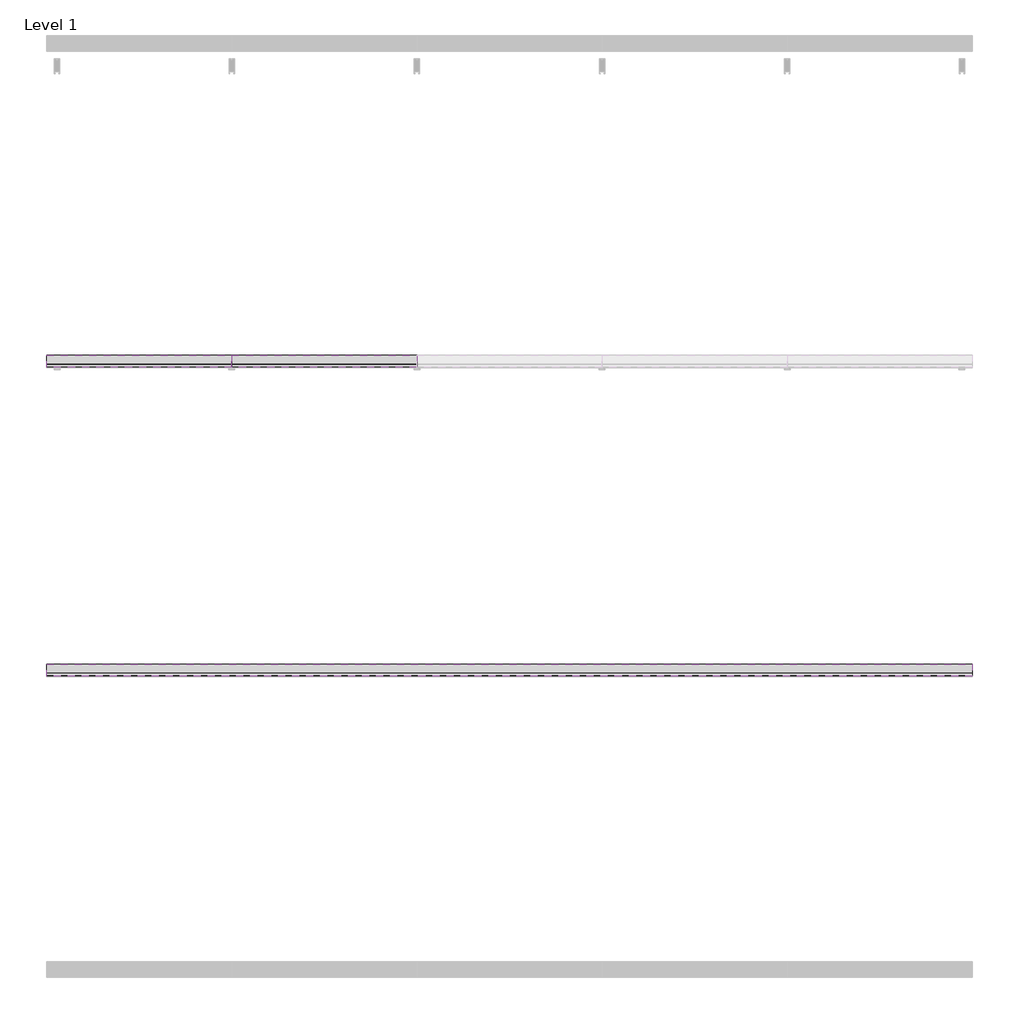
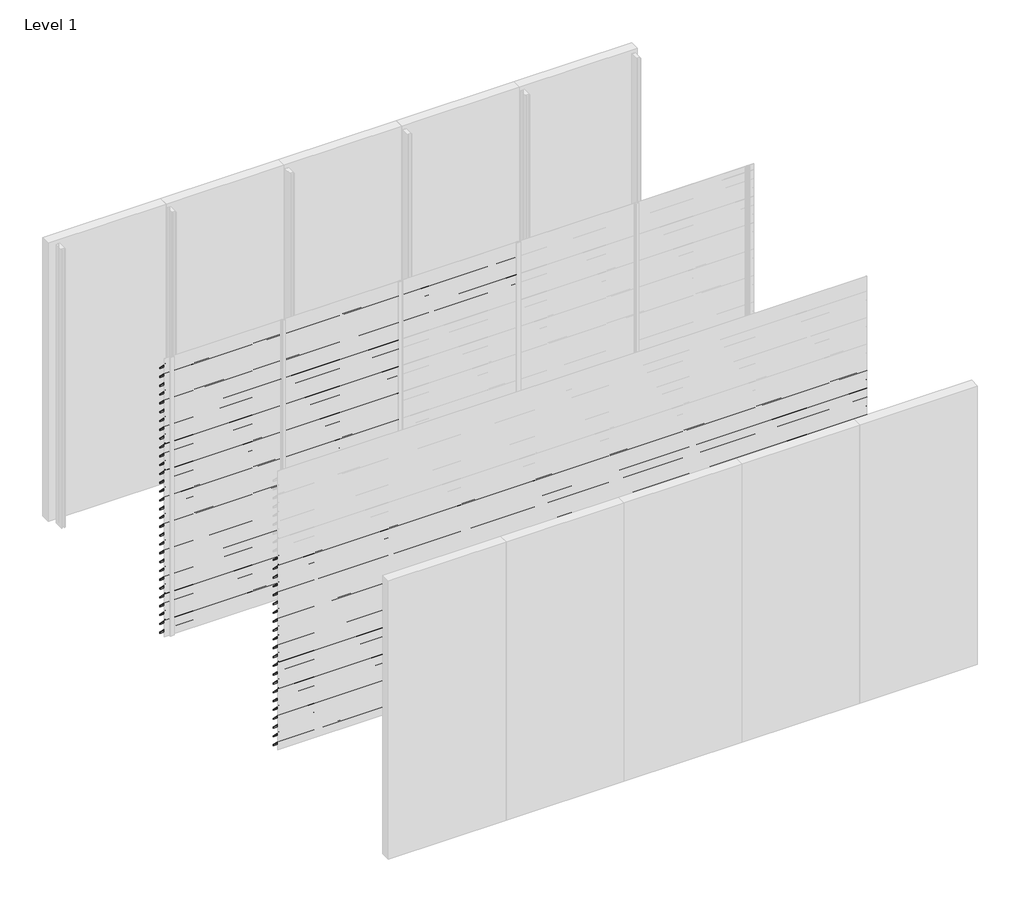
# One storey, part 14 of 24: 89 proxies.
"""IFC4 building model written with IfcOpenShell, lengths in millimetres."""

from ifc_helpers import new_model, si_unit, frame, origin, place, context, project, spatial, polyline, outline, extrude, element, save

model = new_model("IFC4")

# Units and contexts
model_context = context("Model", 3, world=origin())
ifc_project = project(units=[si_unit("LENGTHUNIT", "METRE", prefix="MILLI")], contexts=[model_context])

# Site, building, storey
site = spatial("IfcSite", under=ifc_project)
building = spatial("IfcBuilding", under=site)
storey = spatial("IfcBuildingStorey", under=building, Name="Level 1", Elevation=0.0)

# Proxies
placement = place(None, origin())
element("IfcBuildingElementProxy", 1, Name="Wall Sweeps", at=placement, inside=storey, context=model_context, shape_type="SweptSolid", body=[
    extrude(outline(polyline([(-23920.8, 2842.9), (-23922.3, 2842.9), (-23922.3, 2855.1762333), (-23998.0, 2930.4561238), (-23998.0, 2945.0), (-23996.5, 2945.0), (-23996.5, 2931.0798905), (-23920.8, 2855.8), (-23920.8, 2842.9)])), frame((0.0, 0.0, 0.0), z_axis=(1.0, 0.0, 0.0), x_axis=(0.0, 1.0, 0.0)), (0.0, 0.0, 1.0), 1200.0),
])
element("IfcBuildingElementProxy", 2, Name="Wall Sweeps", at=placement, inside=storey, context=model_context, shape_type="SweptSolid", body=[
    extrude(outline(polyline([(-23920.8, 2747.9), (-23922.3, 2747.9), (-23922.3, 2760.1762333), (-23998.0, 2835.4561238), (-23998.0, 2850.0), (-23996.5, 2850.0), (-23996.5, 2836.0798905), (-23920.8, 2760.8), (-23920.8, 2747.9)])), frame((0.0, 0.0, 0.0), z_axis=(1.0, 0.0, 0.0), x_axis=(0.0, 1.0, 0.0)), (0.0, 0.0, 1.0), 1200.0),
])
element("IfcBuildingElementProxy", 3, Name="Wall Sweeps", at=placement, inside=storey, context=model_context, shape_type="SweptSolid", body=[
    extrude(outline(polyline([(-23920.8, 2652.9), (-23922.3, 2652.9), (-23922.3, 2665.1762333), (-23998.0, 2740.4561238), (-23998.0, 2755.0), (-23996.5, 2755.0), (-23996.5, 2741.0798905), (-23920.8, 2665.8), (-23920.8, 2652.9)])), frame((0.0, 0.0, 0.0), z_axis=(1.0, 0.0, 0.0), x_axis=(0.0, 1.0, 0.0)), (0.0, 0.0, 1.0), 1200.0),
])
element("IfcBuildingElementProxy", 4, Name="Wall Sweeps", at=placement, inside=storey, context=model_context, shape_type="SweptSolid", body=[
    extrude(outline(polyline([(-23920.8, 2557.9), (-23922.3, 2557.9), (-23922.3, 2570.1762333), (-23998.0, 2645.4561238), (-23998.0, 2660.0), (-23996.5, 2660.0), (-23996.5, 2646.0798905), (-23920.8, 2570.8), (-23920.8, 2557.9)])), frame((0.0, 0.0, 0.0), z_axis=(1.0, 0.0, 0.0), x_axis=(0.0, 1.0, 0.0)), (0.0, 0.0, 1.0), 1200.0),
])
element("IfcBuildingElementProxy", 5, Name="Wall Sweeps", at=placement, inside=storey, context=model_context, shape_type="SweptSolid", body=[
    extrude(outline(polyline([(-23920.8, 2462.9), (-23922.3, 2462.9), (-23922.3, 2475.1762333), (-23998.0, 2550.4561238), (-23998.0, 2565.0), (-23996.5, 2565.0), (-23996.5, 2551.0798905), (-23920.8, 2475.8), (-23920.8, 2462.9)])), frame((0.0, 0.0, 0.0), z_axis=(1.0, 0.0, 0.0), x_axis=(0.0, 1.0, 0.0)), (0.0, 0.0, 1.0), 1200.0),
])
element("IfcBuildingElementProxy", 6, Name="Wall Sweeps", at=placement, inside=storey, context=model_context, shape_type="SweptSolid", body=[
    extrude(outline(polyline([(-23920.8, 2367.9), (-23922.3, 2367.9), (-23922.3, 2380.1762333), (-23998.0, 2455.4561238), (-23998.0, 2470.0), (-23996.5, 2470.0), (-23996.5, 2456.0798905), (-23920.8, 2380.8), (-23920.8, 2367.9)])), frame((0.0, 0.0, 0.0), z_axis=(1.0, 0.0, 0.0), x_axis=(0.0, 1.0, 0.0)), (0.0, 0.0, 1.0), 1200.0),
])
element("IfcBuildingElementProxy", 7, Name="Wall Sweeps", at=placement, inside=storey, context=model_context, shape_type="SweptSolid", body=[
    extrude(outline(polyline([(-23920.8, 2272.9), (-23922.3, 2272.9), (-23922.3, 2285.1762333), (-23998.0, 2360.4561238), (-23998.0, 2375.0), (-23996.5, 2375.0), (-23996.5, 2361.0798905), (-23920.8, 2285.8), (-23920.8, 2272.9)])), frame((0.0, 0.0, 0.0), z_axis=(1.0, 0.0, 0.0), x_axis=(0.0, 1.0, 0.0)), (0.0, 0.0, 1.0), 1200.0),
])
element("IfcBuildingElementProxy", 8, Name="Wall Sweeps", at=placement, inside=storey, context=model_context, shape_type="SweptSolid", body=[
    extrude(outline(polyline([(-23920.8, 2177.9), (-23922.3, 2177.9), (-23922.3, 2190.1762333), (-23998.0, 2265.4561238), (-23998.0, 2280.0), (-23996.5, 2280.0), (-23996.5, 2266.0798905), (-23920.8, 2190.8), (-23920.8, 2177.9)])), frame((0.0, 0.0, 0.0), z_axis=(1.0, 0.0, 0.0), x_axis=(0.0, 1.0, 0.0)), (0.0, 0.0, 1.0), 1200.0),
])
element("IfcBuildingElementProxy", 9, Name="Wall Sweeps", at=placement, inside=storey, context=model_context, shape_type="SweptSolid", body=[
    extrude(outline(polyline([(-23920.8, 2082.9), (-23922.3, 2082.9), (-23922.3, 2095.1762333), (-23998.0, 2170.4561238), (-23998.0, 2185.0), (-23996.5, 2185.0), (-23996.5, 2171.0798905), (-23920.8, 2095.8), (-23920.8, 2082.9)])), frame((0.0, 0.0, 0.0), z_axis=(1.0, 0.0, 0.0), x_axis=(0.0, 1.0, 0.0)), (0.0, 0.0, 1.0), 1200.0),
])
element("IfcBuildingElementProxy", 10, Name="Wall Sweeps", at=placement, inside=storey, context=model_context, shape_type="SweptSolid", body=[
    extrude(outline(polyline([(-23920.8, 1987.9), (-23922.3, 1987.9), (-23922.3, 2000.1762333), (-23998.0, 2075.4561238), (-23998.0, 2090.0), (-23996.5, 2090.0), (-23996.5, 2076.0798905), (-23920.8, 2000.8), (-23920.8, 1987.9)])), frame((0.0, 0.0, 0.0), z_axis=(1.0, 0.0, 0.0), x_axis=(0.0, 1.0, 0.0)), (0.0, 0.0, 1.0), 1200.0),
])
element("IfcBuildingElementProxy", 11, Name="Wall Sweeps", at=placement, inside=storey, context=model_context, shape_type="SweptSolid", body=[
    extrude(outline(polyline([(-23920.8, 1892.9), (-23922.3, 1892.9), (-23922.3, 1905.1762333), (-23998.0, 1980.4561238), (-23998.0, 1995.0), (-23996.5, 1995.0), (-23996.5, 1981.0798905), (-23920.8, 1905.8), (-23920.8, 1892.9)])), frame((0.0, 0.0, 0.0), z_axis=(1.0, 0.0, 0.0), x_axis=(0.0, 1.0, 0.0)), (0.0, 0.0, 1.0), 1200.0),
])
element("IfcBuildingElementProxy", 12, Name="Wall Sweeps", at=placement, inside=storey, context=model_context, shape_type="SweptSolid", body=[
    extrude(outline(polyline([(-23920.8, 1797.9), (-23922.3, 1797.9), (-23922.3, 1810.1762333), (-23998.0, 1885.4561238), (-23998.0, 1900.0), (-23996.5, 1900.0), (-23996.5, 1886.0798905), (-23920.8, 1810.8), (-23920.8, 1797.9)])), frame((0.0, 0.0, 0.0), z_axis=(1.0, 0.0, 0.0), x_axis=(0.0, 1.0, 0.0)), (0.0, 0.0, 1.0), 1200.0),
])
element("IfcBuildingElementProxy", 13, Name="Wall Sweeps", at=placement, inside=storey, context=model_context, shape_type="SweptSolid", body=[
    extrude(outline(polyline([(-23920.8, 1702.9), (-23922.3, 1702.9), (-23922.3, 1715.1762333), (-23998.0, 1790.4561238), (-23998.0, 1805.0), (-23996.5, 1805.0), (-23996.5, 1791.0798905), (-23920.8, 1715.8), (-23920.8, 1702.9)])), frame((0.0, 0.0, 0.0), z_axis=(1.0, 0.0, 0.0), x_axis=(0.0, 1.0, 0.0)), (0.0, 0.0, 1.0), 1200.0),
])
element("IfcBuildingElementProxy", 14, Name="Wall Sweeps", at=placement, inside=storey, context=model_context, shape_type="SweptSolid", body=[
    extrude(outline(polyline([(-23920.8, 1607.9), (-23922.3, 1607.9), (-23922.3, 1620.1762333), (-23998.0, 1695.4561238), (-23998.0, 1710.0), (-23996.5, 1710.0), (-23996.5, 1696.0798905), (-23920.8, 1620.8), (-23920.8, 1607.9)])), frame((0.0, 0.0, 0.0), z_axis=(1.0, 0.0, 0.0), x_axis=(0.0, 1.0, 0.0)), (0.0, 0.0, 1.0), 1200.0),
])
element("IfcBuildingElementProxy", 15, Name="Wall Sweeps", at=placement, inside=storey, context=model_context, shape_type="SweptSolid", body=[
    extrude(outline(polyline([(-23920.8, 1512.9), (-23922.3, 1512.9), (-23922.3, 1525.1762333), (-23998.0, 1600.4561238), (-23998.0, 1615.0), (-23996.5, 1615.0), (-23996.5, 1601.0798905), (-23920.8, 1525.8), (-23920.8, 1512.9)])), frame((0.0, 0.0, 0.0), z_axis=(1.0, 0.0, 0.0), x_axis=(0.0, 1.0, 0.0)), (0.0, 0.0, 1.0), 1200.0),
])
element("IfcBuildingElementProxy", 16, Name="Wall Sweeps", at=placement, inside=storey, context=model_context, shape_type="SweptSolid", body=[
    extrude(outline(polyline([(-23920.8, 1417.9), (-23922.3, 1417.9), (-23922.3, 1430.1762333), (-23998.0, 1505.4561238), (-23998.0, 1520.0), (-23996.5, 1520.0), (-23996.5, 1506.0798905), (-23920.8, 1430.8), (-23920.8, 1417.9)])), frame((0.0, 0.0, 0.0), z_axis=(1.0, 0.0, 0.0), x_axis=(0.0, 1.0, 0.0)), (0.0, 0.0, 1.0), 1200.0),
])
element("IfcBuildingElementProxy", 17, Name="Wall Sweeps", at=placement, inside=storey, context=model_context, shape_type="SweptSolid", body=[
    extrude(outline(polyline([(-23920.8, 1322.9), (-23922.3, 1322.9), (-23922.3, 1335.1762333), (-23998.0, 1410.4561238), (-23998.0, 1425.0), (-23996.5, 1425.0), (-23996.5, 1411.0798905), (-23920.8, 1335.8), (-23920.8, 1322.9)])), frame((0.0, 0.0, 0.0), z_axis=(1.0, 0.0, 0.0), x_axis=(0.0, 1.0, 0.0)), (0.0, 0.0, 1.0), 1200.0),
])
element("IfcBuildingElementProxy", 18, Name="Wall Sweeps", at=placement, inside=storey, context=model_context, shape_type="SweptSolid", body=[
    extrude(outline(polyline([(-23920.8, 1227.9), (-23922.3, 1227.9), (-23922.3, 1240.1762333), (-23998.0, 1315.4561238), (-23998.0, 1330.0), (-23996.5, 1330.0), (-23996.5, 1316.0798905), (-23920.8, 1240.8), (-23920.8, 1227.9)])), frame((0.0, 0.0, 0.0), z_axis=(1.0, 0.0, 0.0), x_axis=(0.0, 1.0, 0.0)), (0.0, 0.0, 1.0), 1200.0),
])
element("IfcBuildingElementProxy", 19, Name="Wall Sweeps", at=placement, inside=storey, context=model_context, shape_type="SweptSolid", body=[
    extrude(outline(polyline([(-23920.8, 1132.9), (-23922.3, 1132.9), (-23922.3, 1145.1762333), (-23998.0, 1220.4561238), (-23998.0, 1235.0), (-23996.5, 1235.0), (-23996.5, 1221.0798905), (-23920.8, 1145.8), (-23920.8, 1132.9)])), frame((0.0, 0.0, 0.0), z_axis=(1.0, 0.0, 0.0), x_axis=(0.0, 1.0, 0.0)), (0.0, 0.0, 1.0), 1200.0),
])
element("IfcBuildingElementProxy", 20, Name="Wall Sweeps", at=placement, inside=storey, context=model_context, shape_type="SweptSolid", body=[
    extrude(outline(polyline([(-23920.8, 1037.9), (-23922.3, 1037.9), (-23922.3, 1050.1762333), (-23998.0, 1125.4561238), (-23998.0, 1140.0), (-23996.5, 1140.0), (-23996.5, 1126.0798905), (-23920.8, 1050.8), (-23920.8, 1037.9)])), frame((0.0, 0.0, 0.0), z_axis=(1.0, 0.0, 0.0), x_axis=(0.0, 1.0, 0.0)), (0.0, 0.0, 1.0), 1200.0),
])
element("IfcBuildingElementProxy", 21, Name="Wall Sweeps", at=placement, inside=storey, context=model_context, shape_type="SweptSolid", body=[
    extrude(outline(polyline([(-23920.8, 942.9), (-23922.3, 942.9), (-23922.3, 955.1762333), (-23998.0, 1030.4561238), (-23998.0, 1045.0), (-23996.5, 1045.0), (-23996.5, 1031.0798905), (-23920.8, 955.8), (-23920.8, 942.9)])), frame((0.0, 0.0, 0.0), z_axis=(1.0, 0.0, 0.0), x_axis=(0.0, 1.0, 0.0)), (0.0, 0.0, 1.0), 1200.0),
])
element("IfcBuildingElementProxy", 22, Name="Wall Sweeps", at=placement, inside=storey, context=model_context, shape_type="SweptSolid", body=[
    extrude(outline(polyline([(-23920.8, 847.9), (-23922.3, 847.9), (-23922.3, 860.1762333), (-23998.0, 935.4561238), (-23998.0, 950.0), (-23996.5, 950.0), (-23996.5, 936.0798905), (-23920.8, 860.8), (-23920.8, 847.9)])), frame((0.0, 0.0, 0.0), z_axis=(1.0, 0.0, 0.0), x_axis=(0.0, 1.0, 0.0)), (0.0, 0.0, 1.0), 1200.0),
])
element("IfcBuildingElementProxy", 23, Name="Wall Sweeps", at=placement, inside=storey, context=model_context, shape_type="SweptSolid", body=[
    extrude(outline(polyline([(-23920.8, 752.9), (-23922.3, 752.9), (-23922.3, 765.1762333), (-23998.0, 840.4561238), (-23998.0, 855.0), (-23996.5, 855.0), (-23996.5, 841.0798905), (-23920.8, 765.8), (-23920.8, 752.9)])), frame((0.0, 0.0, 0.0), z_axis=(1.0, 0.0, 0.0), x_axis=(0.0, 1.0, 0.0)), (0.0, 0.0, 1.0), 1200.0),
])
element("IfcBuildingElementProxy", 24, Name="Wall Sweeps", at=placement, inside=storey, context=model_context, shape_type="SweptSolid", body=[
    extrude(outline(polyline([(-23920.8, 657.9), (-23922.3, 657.9), (-23922.3, 670.1762333), (-23998.0, 745.4561238), (-23998.0, 760.0), (-23996.5, 760.0), (-23996.5, 746.0798905), (-23920.8, 670.8), (-23920.8, 657.9)])), frame((0.0, 0.0, 0.0), z_axis=(1.0, 0.0, 0.0), x_axis=(0.0, 1.0, 0.0)), (0.0, 0.0, 1.0), 1200.0),
])
element("IfcBuildingElementProxy", 25, Name="Wall Sweeps", at=placement, inside=storey, context=model_context, shape_type="SweptSolid", body=[
    extrude(outline(polyline([(-23920.8, 562.9), (-23922.3, 562.9), (-23922.3, 575.1762333), (-23998.0, 650.4561238), (-23998.0, 665.0), (-23996.5, 665.0), (-23996.5, 651.0798905), (-23920.8, 575.8), (-23920.8, 562.9)])), frame((0.0, 0.0, 0.0), z_axis=(1.0, 0.0, 0.0), x_axis=(0.0, 1.0, 0.0)), (0.0, 0.0, 1.0), 1200.0),
])
element("IfcBuildingElementProxy", 26, Name="Wall Sweeps", at=placement, inside=storey, context=model_context, shape_type="SweptSolid", body=[
    extrude(outline(polyline([(-23920.8, 467.9), (-23922.3, 467.9), (-23922.3, 480.1762333), (-23998.0, 555.4561238), (-23998.0, 570.0), (-23996.5, 570.0), (-23996.5, 556.0798905), (-23920.8, 480.8), (-23920.8, 467.9)])), frame((0.0, 0.0, 0.0), z_axis=(1.0, 0.0, 0.0), x_axis=(0.0, 1.0, 0.0)), (0.0, 0.0, 1.0), 1200.0),
])
element("IfcBuildingElementProxy", 27, Name="Wall Sweeps", at=placement, inside=storey, context=model_context, shape_type="SweptSolid", body=[
    extrude(outline(polyline([(-23920.8, 372.9), (-23922.3, 372.9), (-23922.3, 385.1762333), (-23998.0, 460.4561238), (-23998.0, 475.0), (-23996.5, 475.0), (-23996.5, 461.0798905), (-23920.8, 385.8), (-23920.8, 372.9)])), frame((0.0, 0.0, 0.0), z_axis=(1.0, 0.0, 0.0), x_axis=(0.0, 1.0, 0.0)), (0.0, 0.0, 1.0), 1200.0),
])
element("IfcBuildingElementProxy", 28, Name="Wall Sweeps", at=placement, inside=storey, context=model_context, shape_type="SweptSolid", body=[
    extrude(outline(polyline([(-23920.8, 277.9), (-23922.3, 277.9), (-23922.3, 290.1762333), (-23998.0, 365.4561238), (-23998.0, 380.0), (-23996.5, 380.0), (-23996.5, 366.0798905), (-23920.8, 290.8), (-23920.8, 277.9)])), frame((0.0, 0.0, 0.0), z_axis=(1.0, 0.0, 0.0), x_axis=(0.0, 1.0, 0.0)), (0.0, 0.0, 1.0), 1200.0),
])
element("IfcBuildingElementProxy", 29, Name="Wall Sweeps", at=placement, inside=storey, context=model_context, shape_type="SweptSolid", body=[
    extrude(outline(polyline([(-23920.8, 182.9), (-23922.3, 182.9), (-23922.3, 195.1762333), (-23998.0, 270.4561238), (-23998.0, 285.0), (-23996.5, 285.0), (-23996.5, 271.0798905), (-23920.8, 195.8), (-23920.8, 182.9)])), frame((0.0, 0.0, 0.0), z_axis=(1.0, 0.0, 0.0), x_axis=(0.0, 1.0, 0.0)), (0.0, 0.0, 1.0), 1200.0),
])
element("IfcBuildingElementProxy", 30, Name="Wall Sweeps", at=placement, inside=storey, context=model_context, shape_type="SweptSolid", body=[
    extrude(outline(polyline([(-23920.8, 87.9), (-23922.3, 87.9), (-23922.3, 100.1762333), (-23998.0, 175.4561238), (-23998.0, 190.0), (-23996.5, 190.0), (-23996.5, 176.0798905), (-23920.8, 100.8), (-23920.8, 87.9)])), frame((0.0, 0.0, 0.0), z_axis=(1.0, 0.0, 0.0), x_axis=(0.0, 1.0, 0.0)), (0.0, 0.0, 1.0), 1200.0),
])
element("IfcBuildingElementProxy", 31, Name="Wall Sweeps", at=placement, inside=storey, context=model_context, shape_type="SweptSolid", body=[
    extrude(outline(polyline([(-23920.8, -7.1), (-23922.3, -7.1), (-23922.3, 5.1762333), (-23998.0, 80.4561238), (-23998.0, 95.0), (-23996.5, 95.0), (-23996.5, 81.0798905), (-23920.8, 5.8), (-23920.8, -7.1)])), frame((0.0, 0.0, 0.0), z_axis=(1.0, 0.0, 0.0), x_axis=(0.0, 1.0, 0.0)), (0.0, 0.0, 1.0), 1200.0),
])
element("IfcBuildingElementProxy", 32, Name="Wall Sweeps", at=placement, inside=storey, context=model_context, shape_type="SweptSolid", body=[
    extrude(outline(polyline([(-23920.8, 2842.9), (-23922.3, 2842.9), (-23922.3, 2855.1762333), (-23998.0, 2930.4561238), (-23998.0, 2945.0), (-23996.5, 2945.0), (-23996.5, 2931.0798905), (-23920.8, 2855.8), (-23920.8, 2842.9)])), frame((1200.0, 0.0, 0.0), z_axis=(1.0, 0.0, 0.0), x_axis=(0.0, 1.0, 0.0)), (0.0, 0.0, 1.0), 1200.0),
])
element("IfcBuildingElementProxy", 33, Name="Wall Sweeps", at=placement, inside=storey, context=model_context, shape_type="SweptSolid", body=[
    extrude(outline(polyline([(-23920.8, 2747.9), (-23922.3, 2747.9), (-23922.3, 2760.1762333), (-23998.0, 2835.4561238), (-23998.0, 2850.0), (-23996.5, 2850.0), (-23996.5, 2836.0798905), (-23920.8, 2760.8), (-23920.8, 2747.9)])), frame((1200.0, 0.0, 0.0), z_axis=(1.0, 0.0, 0.0), x_axis=(0.0, 1.0, 0.0)), (0.0, 0.0, 1.0), 1200.0),
])
element("IfcBuildingElementProxy", 34, Name="Wall Sweeps", at=placement, inside=storey, context=model_context, shape_type="SweptSolid", body=[
    extrude(outline(polyline([(-23920.8, 2652.9), (-23922.3, 2652.9), (-23922.3, 2665.1762333), (-23998.0, 2740.4561238), (-23998.0, 2755.0), (-23996.5, 2755.0), (-23996.5, 2741.0798905), (-23920.8, 2665.8), (-23920.8, 2652.9)])), frame((1200.0, 0.0, 0.0), z_axis=(1.0, 0.0, 0.0), x_axis=(0.0, 1.0, 0.0)), (0.0, 0.0, 1.0), 1200.0),
])
element("IfcBuildingElementProxy", 35, Name="Wall Sweeps", at=placement, inside=storey, context=model_context, shape_type="SweptSolid", body=[
    extrude(outline(polyline([(-23920.8, 2557.9), (-23922.3, 2557.9), (-23922.3, 2570.1762333), (-23998.0, 2645.4561238), (-23998.0, 2660.0), (-23996.5, 2660.0), (-23996.5, 2646.0798905), (-23920.8, 2570.8), (-23920.8, 2557.9)])), frame((1200.0, 0.0, 0.0), z_axis=(1.0, 0.0, 0.0), x_axis=(0.0, 1.0, 0.0)), (0.0, 0.0, 1.0), 1200.0),
])
element("IfcBuildingElementProxy", 36, Name="Wall Sweeps", at=placement, inside=storey, context=model_context, shape_type="SweptSolid", body=[
    extrude(outline(polyline([(-23920.8, 2462.9), (-23922.3, 2462.9), (-23922.3, 2475.1762333), (-23998.0, 2550.4561238), (-23998.0, 2565.0), (-23996.5, 2565.0), (-23996.5, 2551.0798905), (-23920.8, 2475.8), (-23920.8, 2462.9)])), frame((1200.0, 0.0, 0.0), z_axis=(1.0, 0.0, 0.0), x_axis=(0.0, 1.0, 0.0)), (0.0, 0.0, 1.0), 1200.0),
])
element("IfcBuildingElementProxy", 37, Name="Wall Sweeps", at=placement, inside=storey, context=model_context, shape_type="SweptSolid", body=[
    extrude(outline(polyline([(-23920.8, 2367.9), (-23922.3, 2367.9), (-23922.3, 2380.1762333), (-23998.0, 2455.4561238), (-23998.0, 2470.0), (-23996.5, 2470.0), (-23996.5, 2456.0798905), (-23920.8, 2380.8), (-23920.8, 2367.9)])), frame((1200.0, 0.0, 0.0), z_axis=(1.0, 0.0, 0.0), x_axis=(0.0, 1.0, 0.0)), (0.0, 0.0, 1.0), 1200.0),
])
element("IfcBuildingElementProxy", 38, Name="Wall Sweeps", at=placement, inside=storey, context=model_context, shape_type="SweptSolid", body=[
    extrude(outline(polyline([(-23920.8, 2272.9), (-23922.3, 2272.9), (-23922.3, 2285.1762333), (-23998.0, 2360.4561238), (-23998.0, 2375.0), (-23996.5, 2375.0), (-23996.5, 2361.0798905), (-23920.8, 2285.8), (-23920.8, 2272.9)])), frame((1200.0, 0.0, 0.0), z_axis=(1.0, 0.0, 0.0), x_axis=(0.0, 1.0, 0.0)), (0.0, 0.0, 1.0), 1200.0),
])
element("IfcBuildingElementProxy", 39, Name="Wall Sweeps", at=placement, inside=storey, context=model_context, shape_type="SweptSolid", body=[
    extrude(outline(polyline([(-23920.8, 2177.9), (-23922.3, 2177.9), (-23922.3, 2190.1762333), (-23998.0, 2265.4561238), (-23998.0, 2280.0), (-23996.5, 2280.0), (-23996.5, 2266.0798905), (-23920.8, 2190.8), (-23920.8, 2177.9)])), frame((1200.0, 0.0, 0.0), z_axis=(1.0, 0.0, 0.0), x_axis=(0.0, 1.0, 0.0)), (0.0, 0.0, 1.0), 1200.0),
])
element("IfcBuildingElementProxy", 40, Name="Wall Sweeps", at=placement, inside=storey, context=model_context, shape_type="SweptSolid", body=[
    extrude(outline(polyline([(-23920.8, 2082.9), (-23922.3, 2082.9), (-23922.3, 2095.1762333), (-23998.0, 2170.4561238), (-23998.0, 2185.0), (-23996.5, 2185.0), (-23996.5, 2171.0798905), (-23920.8, 2095.8), (-23920.8, 2082.9)])), frame((1200.0, 0.0, 0.0), z_axis=(1.0, 0.0, 0.0), x_axis=(0.0, 1.0, 0.0)), (0.0, 0.0, 1.0), 1200.0),
])
element("IfcBuildingElementProxy", 41, Name="Wall Sweeps", at=placement, inside=storey, context=model_context, shape_type="SweptSolid", body=[
    extrude(outline(polyline([(-23920.8, 1987.9), (-23922.3, 1987.9), (-23922.3, 2000.1762333), (-23998.0, 2075.4561238), (-23998.0, 2090.0), (-23996.5, 2090.0), (-23996.5, 2076.0798905), (-23920.8, 2000.8), (-23920.8, 1987.9)])), frame((1200.0, 0.0, 0.0), z_axis=(1.0, 0.0, 0.0), x_axis=(0.0, 1.0, 0.0)), (0.0, 0.0, 1.0), 1200.0),
])
element("IfcBuildingElementProxy", 42, Name="Wall Sweeps", at=placement, inside=storey, context=model_context, shape_type="SweptSolid", body=[
    extrude(outline(polyline([(-23920.8, 1892.9), (-23922.3, 1892.9), (-23922.3, 1905.1762333), (-23998.0, 1980.4561238), (-23998.0, 1995.0), (-23996.5, 1995.0), (-23996.5, 1981.0798905), (-23920.8, 1905.8), (-23920.8, 1892.9)])), frame((1200.0, 0.0, 0.0), z_axis=(1.0, 0.0, 0.0), x_axis=(0.0, 1.0, 0.0)), (0.0, 0.0, 1.0), 1200.0),
])
element("IfcBuildingElementProxy", 43, Name="Wall Sweeps", at=placement, inside=storey, context=model_context, shape_type="SweptSolid", body=[
    extrude(outline(polyline([(-23920.8, 1797.9), (-23922.3, 1797.9), (-23922.3, 1810.1762333), (-23998.0, 1885.4561238), (-23998.0, 1900.0), (-23996.5, 1900.0), (-23996.5, 1886.0798905), (-23920.8, 1810.8), (-23920.8, 1797.9)])), frame((1200.0, 0.0, 0.0), z_axis=(1.0, 0.0, 0.0), x_axis=(0.0, 1.0, 0.0)), (0.0, 0.0, 1.0), 1200.0),
])
element("IfcBuildingElementProxy", 44, Name="Wall Sweeps", at=placement, inside=storey, context=model_context, shape_type="SweptSolid", body=[
    extrude(outline(polyline([(-23920.8, 1702.9), (-23922.3, 1702.9), (-23922.3, 1715.1762333), (-23998.0, 1790.4561238), (-23998.0, 1805.0), (-23996.5, 1805.0), (-23996.5, 1791.0798905), (-23920.8, 1715.8), (-23920.8, 1702.9)])), frame((1200.0, 0.0, 0.0), z_axis=(1.0, 0.0, 0.0), x_axis=(0.0, 1.0, 0.0)), (0.0, 0.0, 1.0), 1200.0),
])
element("IfcBuildingElementProxy", 45, Name="Wall Sweeps", at=placement, inside=storey, context=model_context, shape_type="SweptSolid", body=[
    extrude(outline(polyline([(-23920.8, 1607.9), (-23922.3, 1607.9), (-23922.3, 1620.1762333), (-23998.0, 1695.4561238), (-23998.0, 1710.0), (-23996.5, 1710.0), (-23996.5, 1696.0798905), (-23920.8, 1620.8), (-23920.8, 1607.9)])), frame((1200.0, 0.0, 0.0), z_axis=(1.0, 0.0, 0.0), x_axis=(0.0, 1.0, 0.0)), (0.0, 0.0, 1.0), 1200.0),
])
element("IfcBuildingElementProxy", 46, Name="Wall Sweeps", at=placement, inside=storey, context=model_context, shape_type="SweptSolid", body=[
    extrude(outline(polyline([(-23920.8, 1512.9), (-23922.3, 1512.9), (-23922.3, 1525.1762333), (-23998.0, 1600.4561238), (-23998.0, 1615.0), (-23996.5, 1615.0), (-23996.5, 1601.0798905), (-23920.8, 1525.8), (-23920.8, 1512.9)])), frame((1200.0, 0.0, 0.0), z_axis=(1.0, 0.0, 0.0), x_axis=(0.0, 1.0, 0.0)), (0.0, 0.0, 1.0), 1200.0),
])
element("IfcBuildingElementProxy", 47, Name="Wall Sweeps", at=placement, inside=storey, context=model_context, shape_type="SweptSolid", body=[
    extrude(outline(polyline([(-23920.8, 1417.9), (-23922.3, 1417.9), (-23922.3, 1430.1762333), (-23998.0, 1505.4561238), (-23998.0, 1520.0), (-23996.5, 1520.0), (-23996.5, 1506.0798905), (-23920.8, 1430.8), (-23920.8, 1417.9)])), frame((1200.0, 0.0, 0.0), z_axis=(1.0, 0.0, 0.0), x_axis=(0.0, 1.0, 0.0)), (0.0, 0.0, 1.0), 1200.0),
])
element("IfcBuildingElementProxy", 48, Name="Wall Sweeps", at=placement, inside=storey, context=model_context, shape_type="SweptSolid", body=[
    extrude(outline(polyline([(-23920.8, 1322.9), (-23922.3, 1322.9), (-23922.3, 1335.1762333), (-23998.0, 1410.4561238), (-23998.0, 1425.0), (-23996.5, 1425.0), (-23996.5, 1411.0798905), (-23920.8, 1335.8), (-23920.8, 1322.9)])), frame((1200.0, 0.0, 0.0), z_axis=(1.0, 0.0, 0.0), x_axis=(0.0, 1.0, 0.0)), (0.0, 0.0, 1.0), 1200.0),
])
element("IfcBuildingElementProxy", 49, Name="Wall Sweeps", at=placement, inside=storey, context=model_context, shape_type="SweptSolid", body=[
    extrude(outline(polyline([(-23920.8, 1227.9), (-23922.3, 1227.9), (-23922.3, 1240.1762333), (-23998.0, 1315.4561238), (-23998.0, 1330.0), (-23996.5, 1330.0), (-23996.5, 1316.0798905), (-23920.8, 1240.8), (-23920.8, 1227.9)])), frame((1200.0, 0.0, 0.0), z_axis=(1.0, 0.0, 0.0), x_axis=(0.0, 1.0, 0.0)), (0.0, 0.0, 1.0), 1200.0),
])
element("IfcBuildingElementProxy", 50, Name="Wall Sweeps", at=placement, inside=storey, context=model_context, shape_type="SweptSolid", body=[
    extrude(outline(polyline([(-23920.8, 1132.9), (-23922.3, 1132.9), (-23922.3, 1145.1762333), (-23998.0, 1220.4561238), (-23998.0, 1235.0), (-23996.5, 1235.0), (-23996.5, 1221.0798905), (-23920.8, 1145.8), (-23920.8, 1132.9)])), frame((1200.0, 0.0, 0.0), z_axis=(1.0, 0.0, 0.0), x_axis=(0.0, 1.0, 0.0)), (0.0, 0.0, 1.0), 1200.0),
])
element("IfcBuildingElementProxy", 51, Name="Wall Sweeps", at=placement, inside=storey, context=model_context, shape_type="SweptSolid", body=[
    extrude(outline(polyline([(-23920.8, 1037.9), (-23922.3, 1037.9), (-23922.3, 1050.1762333), (-23998.0, 1125.4561238), (-23998.0, 1140.0), (-23996.5, 1140.0), (-23996.5, 1126.0798905), (-23920.8, 1050.8), (-23920.8, 1037.9)])), frame((1200.0, 0.0, 0.0), z_axis=(1.0, 0.0, 0.0), x_axis=(0.0, 1.0, 0.0)), (0.0, 0.0, 1.0), 1200.0),
])
element("IfcBuildingElementProxy", 52, Name="Wall Sweeps", at=placement, inside=storey, context=model_context, shape_type="SweptSolid", body=[
    extrude(outline(polyline([(-23920.8, 942.9), (-23922.3, 942.9), (-23922.3, 955.1762333), (-23998.0, 1030.4561238), (-23998.0, 1045.0), (-23996.5, 1045.0), (-23996.5, 1031.0798905), (-23920.8, 955.8), (-23920.8, 942.9)])), frame((1200.0, 0.0, 0.0), z_axis=(1.0, 0.0, 0.0), x_axis=(0.0, 1.0, 0.0)), (0.0, 0.0, 1.0), 1200.0),
])
element("IfcBuildingElementProxy", 53, Name="Wall Sweeps", at=placement, inside=storey, context=model_context, shape_type="SweptSolid", body=[
    extrude(outline(polyline([(-23920.8, 847.9), (-23922.3, 847.9), (-23922.3, 860.1762333), (-23998.0, 935.4561238), (-23998.0, 950.0), (-23996.5, 950.0), (-23996.5, 936.0798905), (-23920.8, 860.8), (-23920.8, 847.9)])), frame((1200.0, 0.0, 0.0), z_axis=(1.0, 0.0, 0.0), x_axis=(0.0, 1.0, 0.0)), (0.0, 0.0, 1.0), 1200.0),
])
element("IfcBuildingElementProxy", 54, Name="Wall Sweeps", at=placement, inside=storey, context=model_context, shape_type="SweptSolid", body=[
    extrude(outline(polyline([(-23920.8, 752.9), (-23922.3, 752.9), (-23922.3, 765.1762333), (-23998.0, 840.4561238), (-23998.0, 855.0), (-23996.5, 855.0), (-23996.5, 841.0798905), (-23920.8, 765.8), (-23920.8, 752.9)])), frame((1200.0, 0.0, 0.0), z_axis=(1.0, 0.0, 0.0), x_axis=(0.0, 1.0, 0.0)), (0.0, 0.0, 1.0), 1200.0),
])
element("IfcBuildingElementProxy", 55, Name="Wall Sweeps", at=placement, inside=storey, context=model_context, shape_type="SweptSolid", body=[
    extrude(outline(polyline([(-23920.8, 657.9), (-23922.3, 657.9), (-23922.3, 670.1762333), (-23998.0, 745.4561238), (-23998.0, 760.0), (-23996.5, 760.0), (-23996.5, 746.0798905), (-23920.8, 670.8), (-23920.8, 657.9)])), frame((1200.0, 0.0, 0.0), z_axis=(1.0, 0.0, 0.0), x_axis=(0.0, 1.0, 0.0)), (0.0, 0.0, 1.0), 1200.0),
])
element("IfcBuildingElementProxy", 56, Name="Wall Sweeps", at=placement, inside=storey, context=model_context, shape_type="SweptSolid", body=[
    extrude(outline(polyline([(-23920.8, 562.9), (-23922.3, 562.9), (-23922.3, 575.1762333), (-23998.0, 650.4561238), (-23998.0, 665.0), (-23996.5, 665.0), (-23996.5, 651.0798905), (-23920.8, 575.8), (-23920.8, 562.9)])), frame((1200.0, 0.0, 0.0), z_axis=(1.0, 0.0, 0.0), x_axis=(0.0, 1.0, 0.0)), (0.0, 0.0, 1.0), 1200.0),
])
element("IfcBuildingElementProxy", 57, Name="Wall Sweeps", at=placement, inside=storey, context=model_context, shape_type="SweptSolid", body=[
    extrude(outline(polyline([(-23920.8, 467.9), (-23922.3, 467.9), (-23922.3, 480.1762333), (-23998.0, 555.4561238), (-23998.0, 570.0), (-23996.5, 570.0), (-23996.5, 556.0798905), (-23920.8, 480.8), (-23920.8, 467.9)])), frame((1200.0, 0.0, 0.0), z_axis=(1.0, 0.0, 0.0), x_axis=(0.0, 1.0, 0.0)), (0.0, 0.0, 1.0), 1200.0),
])
element("IfcBuildingElementProxy", 58, Name="Wall Sweeps", at=placement, inside=storey, context=model_context, shape_type="SweptSolid", body=[
    extrude(outline(polyline([(-23920.8, 372.9), (-23922.3, 372.9), (-23922.3, 385.1762333), (-23998.0, 460.4561238), (-23998.0, 475.0), (-23996.5, 475.0), (-23996.5, 461.0798905), (-23920.8, 385.8), (-23920.8, 372.9)])), frame((1200.0, 0.0, 0.0), z_axis=(1.0, 0.0, 0.0), x_axis=(0.0, 1.0, 0.0)), (0.0, 0.0, 1.0), 1200.0),
])
element("IfcBuildingElementProxy", 59, Name="Wall Sweeps", at=placement, inside=storey, context=model_context, shape_type="SweptSolid", body=[
    extrude(outline(polyline([(-23920.8, 277.9), (-23922.3, 277.9), (-23922.3, 290.1762333), (-23998.0, 365.4561238), (-23998.0, 380.0), (-23996.5, 380.0), (-23996.5, 366.0798905), (-23920.8, 290.8), (-23920.8, 277.9)])), frame((1200.0, 0.0, 0.0), z_axis=(1.0, 0.0, 0.0), x_axis=(0.0, 1.0, 0.0)), (0.0, 0.0, 1.0), 1200.0),
])
element("IfcBuildingElementProxy", 60, Name="Wall Sweeps", at=placement, inside=storey, context=model_context, shape_type="SweptSolid", body=[
    extrude(outline(polyline([(-23920.8, 182.9), (-23922.3, 182.9), (-23922.3, 195.1762333), (-23998.0, 270.4561238), (-23998.0, 285.0), (-23996.5, 285.0), (-23996.5, 271.0798905), (-23920.8, 195.8), (-23920.8, 182.9)])), frame((1200.0, 0.0, 0.0), z_axis=(1.0, 0.0, 0.0), x_axis=(0.0, 1.0, 0.0)), (0.0, 0.0, 1.0), 1200.0),
])
element("IfcBuildingElementProxy", 61, Name="Wall Sweeps", at=placement, inside=storey, context=model_context, shape_type="SweptSolid", body=[
    extrude(outline(polyline([(-23920.8, 87.9), (-23922.3, 87.9), (-23922.3, 100.1762333), (-23998.0, 175.4561238), (-23998.0, 190.0), (-23996.5, 190.0), (-23996.5, 176.0798905), (-23920.8, 100.8), (-23920.8, 87.9)])), frame((1200.0, 0.0, 0.0), z_axis=(1.0, 0.0, 0.0), x_axis=(0.0, 1.0, 0.0)), (0.0, 0.0, 1.0), 1200.0),
])
element("IfcBuildingElementProxy", 62, Name="Wall Sweeps", at=placement, inside=storey, context=model_context, shape_type="SweptSolid", body=[
    extrude(outline(polyline([(-23920.8, -7.1), (-23922.3, -7.1), (-23922.3, 5.1762333), (-23998.0, 80.4561238), (-23998.0, 95.0), (-23996.5, 95.0), (-23996.5, 81.0798905), (-23920.8, 5.8), (-23920.8, -7.1)])), frame((1200.0, 0.0, 0.0), z_axis=(1.0, 0.0, 0.0), x_axis=(0.0, 1.0, 0.0)), (0.0, 0.0, 1.0), 1200.0),
])
element("IfcBuildingElementProxy", 63, Name="Wall Sweeps", at=placement, inside=storey, context=model_context, shape_type="SweptSolid", body=[
    extrude(outline(polyline([(-23920.8, 2842.9), (-23922.3, 2842.9), (-23922.3, 2855.1762333), (-23998.0, 2930.4561238), (-23998.0, 2945.0), (-23996.5, 2945.0), (-23996.5, 2931.0798905), (-23920.8, 2855.8), (-23920.8, 2842.9)])), frame((2400.0, 0.0, 0.0), z_axis=(1.0, 0.0, 0.0), x_axis=(0.0, 1.0, 0.0)), (0.0, 0.0, 1.0), 1200.0),
])
element("IfcBuildingElementProxy", 64, Name="Wall Sweeps", at=placement, inside=storey, context=model_context, shape_type="SweptSolid", body=[
    extrude(outline(polyline([(-23920.8, 2747.9), (-23922.3, 2747.9), (-23922.3, 2760.1762333), (-23998.0, 2835.4561238), (-23998.0, 2850.0), (-23996.5, 2850.0), (-23996.5, 2836.0798905), (-23920.8, 2760.8), (-23920.8, 2747.9)])), frame((2400.0, 0.0, 0.0), z_axis=(1.0, 0.0, 0.0), x_axis=(0.0, 1.0, 0.0)), (0.0, 0.0, 1.0), 1200.0),
])
element("IfcBuildingElementProxy", 65, Name="Wall Sweeps", at=placement, inside=storey, context=model_context, shape_type="SweptSolid", body=[
    extrude(outline(polyline([(-23920.8, 2652.9), (-23922.3, 2652.9), (-23922.3, 2665.1762333), (-23998.0, 2740.4561238), (-23998.0, 2755.0), (-23996.5, 2755.0), (-23996.5, 2741.0798905), (-23920.8, 2665.8), (-23920.8, 2652.9)])), frame((2400.0, 0.0, 0.0), z_axis=(1.0, 0.0, 0.0), x_axis=(0.0, 1.0, 0.0)), (0.0, 0.0, 1.0), 1200.0),
])
element("IfcBuildingElementProxy", 66, Name="Wall Sweeps", at=placement, inside=storey, context=model_context, shape_type="SweptSolid", body=[
    extrude(outline(polyline([(-23920.8, 2557.9), (-23922.3, 2557.9), (-23922.3, 2570.1762333), (-23998.0, 2645.4561238), (-23998.0, 2660.0), (-23996.5, 2660.0), (-23996.5, 2646.0798905), (-23920.8, 2570.8), (-23920.8, 2557.9)])), frame((2400.0, 0.0, 0.0), z_axis=(1.0, 0.0, 0.0), x_axis=(0.0, 1.0, 0.0)), (0.0, 0.0, 1.0), 1200.0),
])
element("IfcBuildingElementProxy", 67, Name="Wall Sweeps", at=placement, inside=storey, context=model_context, shape_type="SweptSolid", body=[
    extrude(outline(polyline([(-23920.8, 2462.9), (-23922.3, 2462.9), (-23922.3, 2475.1762333), (-23998.0, 2550.4561238), (-23998.0, 2565.0), (-23996.5, 2565.0), (-23996.5, 2551.0798905), (-23920.8, 2475.8), (-23920.8, 2462.9)])), frame((2400.0, 0.0, 0.0), z_axis=(1.0, 0.0, 0.0), x_axis=(0.0, 1.0, 0.0)), (0.0, 0.0, 1.0), 1200.0),
])
element("IfcBuildingElementProxy", 68, Name="Wall Sweeps", at=placement, inside=storey, context=model_context, shape_type="SweptSolid", body=[
    extrude(outline(polyline([(-25920.8, 1987.9), (-25922.3, 1987.9), (-25922.3, 2000.1762333), (-25998.0, 2075.4561238), (-25998.0, 2090.0), (-25996.5, 2090.0), (-25996.5, 2076.0798905), (-25920.8, 2000.8), (-25920.8, 1987.9)])), frame((0.0, 0.0, 0.0), z_axis=(1.0, 0.0, 0.0), x_axis=(0.0, 1.0, 0.0)), (0.0, 0.0, 1.0), 6000.0),
])
element("IfcBuildingElementProxy", 69, Name="Wall Sweeps", at=placement, inside=storey, context=model_context, shape_type="SweptSolid", body=[
    extrude(outline(polyline([(-25920.8, 1892.9), (-25922.3, 1892.9), (-25922.3, 1905.1762333), (-25998.0, 1980.4561238), (-25998.0, 1995.0), (-25996.5, 1995.0), (-25996.5, 1981.0798905), (-25920.8, 1905.8), (-25920.8, 1892.9)])), frame((0.0, 0.0, 0.0), z_axis=(1.0, 0.0, 0.0), x_axis=(0.0, 1.0, 0.0)), (0.0, 0.0, 1.0), 6000.0),
])
element("IfcBuildingElementProxy", 70, Name="Wall Sweeps", at=placement, inside=storey, context=model_context, shape_type="SweptSolid", body=[
    extrude(outline(polyline([(-25920.8, 1797.9), (-25922.3, 1797.9), (-25922.3, 1810.1762333), (-25998.0, 1885.4561238), (-25998.0, 1900.0), (-25996.5, 1900.0), (-25996.5, 1886.0798905), (-25920.8, 1810.8), (-25920.8, 1797.9)])), frame((0.0, 0.0, 0.0), z_axis=(1.0, 0.0, 0.0), x_axis=(0.0, 1.0, 0.0)), (0.0, 0.0, 1.0), 6000.0),
])
element("IfcBuildingElementProxy", 71, Name="Wall Sweeps", at=placement, inside=storey, context=model_context, shape_type="SweptSolid", body=[
    extrude(outline(polyline([(-25920.8, 1702.9), (-25922.3, 1702.9), (-25922.3, 1715.1762333), (-25998.0, 1790.4561238), (-25998.0, 1805.0), (-25996.5, 1805.0), (-25996.5, 1791.0798905), (-25920.8, 1715.8), (-25920.8, 1702.9)])), frame((0.0, 0.0, 0.0), z_axis=(1.0, 0.0, 0.0), x_axis=(0.0, 1.0, 0.0)), (0.0, 0.0, 1.0), 6000.0),
])
element("IfcBuildingElementProxy", 72, Name="Wall Sweeps", at=placement, inside=storey, context=model_context, shape_type="SweptSolid", body=[
    extrude(outline(polyline([(-25920.8, 1607.9), (-25922.3, 1607.9), (-25922.3, 1620.1762333), (-25998.0, 1695.4561238), (-25998.0, 1710.0), (-25996.5, 1710.0), (-25996.5, 1696.0798905), (-25920.8, 1620.8), (-25920.8, 1607.9)])), frame((0.0, 0.0, 0.0), z_axis=(1.0, 0.0, 0.0), x_axis=(0.0, 1.0, 0.0)), (0.0, 0.0, 1.0), 6000.0),
])
element("IfcBuildingElementProxy", 73, Name="Wall Sweeps", at=placement, inside=storey, context=model_context, shape_type="SweptSolid", body=[
    extrude(outline(polyline([(-25920.8, 1512.9), (-25922.3, 1512.9), (-25922.3, 1525.1762333), (-25998.0, 1600.4561238), (-25998.0, 1615.0), (-25996.5, 1615.0), (-25996.5, 1601.0798905), (-25920.8, 1525.8), (-25920.8, 1512.9)])), frame((0.0, 0.0, 0.0), z_axis=(1.0, 0.0, 0.0), x_axis=(0.0, 1.0, 0.0)), (0.0, 0.0, 1.0), 6000.0),
])
element("IfcBuildingElementProxy", 74, Name="Wall Sweeps", at=placement, inside=storey, context=model_context, shape_type="SweptSolid", body=[
    extrude(outline(polyline([(-25920.8, 1417.9), (-25922.3, 1417.9), (-25922.3, 1430.1762333), (-25998.0, 1505.4561238), (-25998.0, 1520.0), (-25996.5, 1520.0), (-25996.5, 1506.0798905), (-25920.8, 1430.8), (-25920.8, 1417.9)])), frame((0.0, 0.0, 0.0), z_axis=(1.0, 0.0, 0.0), x_axis=(0.0, 1.0, 0.0)), (0.0, 0.0, 1.0), 6000.0),
])
element("IfcBuildingElementProxy", 75, Name="Wall Sweeps", at=placement, inside=storey, context=model_context, shape_type="SweptSolid", body=[
    extrude(outline(polyline([(-25920.8, 1322.9), (-25922.3, 1322.9), (-25922.3, 1335.1762333), (-25998.0, 1410.4561238), (-25998.0, 1425.0), (-25996.5, 1425.0), (-25996.5, 1411.0798905), (-25920.8, 1335.8), (-25920.8, 1322.9)])), frame((0.0, 0.0, 0.0), z_axis=(1.0, 0.0, 0.0), x_axis=(0.0, 1.0, 0.0)), (0.0, 0.0, 1.0), 6000.0),
])
element("IfcBuildingElementProxy", 76, Name="Wall Sweeps", at=placement, inside=storey, context=model_context, shape_type="SweptSolid", body=[
    extrude(outline(polyline([(-25920.8, 1227.9), (-25922.3, 1227.9), (-25922.3, 1240.1762333), (-25998.0, 1315.4561238), (-25998.0, 1330.0), (-25996.5, 1330.0), (-25996.5, 1316.0798905), (-25920.8, 1240.8), (-25920.8, 1227.9)])), frame((0.0, 0.0, 0.0), z_axis=(1.0, 0.0, 0.0), x_axis=(0.0, 1.0, 0.0)), (0.0, 0.0, 1.0), 6000.0),
])
element("IfcBuildingElementProxy", 77, Name="Wall Sweeps", at=placement, inside=storey, context=model_context, shape_type="SweptSolid", body=[
    extrude(outline(polyline([(-25920.8, 1132.9), (-25922.3, 1132.9), (-25922.3, 1145.1762333), (-25998.0, 1220.4561238), (-25998.0, 1235.0), (-25996.5, 1235.0), (-25996.5, 1221.0798905), (-25920.8, 1145.8), (-25920.8, 1132.9)])), frame((0.0, 0.0, 0.0), z_axis=(1.0, 0.0, 0.0), x_axis=(0.0, 1.0, 0.0)), (0.0, 0.0, 1.0), 6000.0),
])
element("IfcBuildingElementProxy", 78, Name="Wall Sweeps", at=placement, inside=storey, context=model_context, shape_type="SweptSolid", body=[
    extrude(outline(polyline([(-25920.8, 1037.9), (-25922.3, 1037.9), (-25922.3, 1050.1762333), (-25998.0, 1125.4561238), (-25998.0, 1140.0), (-25996.5, 1140.0), (-25996.5, 1126.0798905), (-25920.8, 1050.8), (-25920.8, 1037.9)])), frame((0.0, 0.0, 0.0), z_axis=(1.0, 0.0, 0.0), x_axis=(0.0, 1.0, 0.0)), (0.0, 0.0, 1.0), 6000.0),
])
element("IfcBuildingElementProxy", 79, Name="Wall Sweeps", at=placement, inside=storey, context=model_context, shape_type="SweptSolid", body=[
    extrude(outline(polyline([(-25920.8, 942.9), (-25922.3, 942.9), (-25922.3, 955.1762333), (-25998.0, 1030.4561238), (-25998.0, 1045.0), (-25996.5, 1045.0), (-25996.5, 1031.0798905), (-25920.8, 955.8), (-25920.8, 942.9)])), frame((0.0, 0.0, 0.0), z_axis=(1.0, 0.0, 0.0), x_axis=(0.0, 1.0, 0.0)), (0.0, 0.0, 1.0), 6000.0),
])
element("IfcBuildingElementProxy", 80, Name="Wall Sweeps", at=placement, inside=storey, context=model_context, shape_type="SweptSolid", body=[
    extrude(outline(polyline([(-25920.8, 847.9), (-25922.3, 847.9), (-25922.3, 860.1762333), (-25998.0, 935.4561238), (-25998.0, 950.0), (-25996.5, 950.0), (-25996.5, 936.0798905), (-25920.8, 860.8), (-25920.8, 847.9)])), frame((0.0, 0.0, 0.0), z_axis=(1.0, 0.0, 0.0), x_axis=(0.0, 1.0, 0.0)), (0.0, 0.0, 1.0), 6000.0),
])
element("IfcBuildingElementProxy", 81, Name="Wall Sweeps", at=placement, inside=storey, context=model_context, shape_type="SweptSolid", body=[
    extrude(outline(polyline([(-25920.8, 752.9), (-25922.3, 752.9), (-25922.3, 765.1762333), (-25998.0, 840.4561238), (-25998.0, 855.0), (-25996.5, 855.0), (-25996.5, 841.0798905), (-25920.8, 765.8), (-25920.8, 752.9)])), frame((0.0, 0.0, 0.0), z_axis=(1.0, 0.0, 0.0), x_axis=(0.0, 1.0, 0.0)), (0.0, 0.0, 1.0), 6000.0),
])
element("IfcBuildingElementProxy", 82, Name="Wall Sweeps", at=placement, inside=storey, context=model_context, shape_type="SweptSolid", body=[
    extrude(outline(polyline([(-25920.8, 657.9), (-25922.3, 657.9), (-25922.3, 670.1762333), (-25998.0, 745.4561238), (-25998.0, 760.0), (-25996.5, 760.0), (-25996.5, 746.0798905), (-25920.8, 670.8), (-25920.8, 657.9)])), frame((0.0, 0.0, 0.0), z_axis=(1.0, 0.0, 0.0), x_axis=(0.0, 1.0, 0.0)), (0.0, 0.0, 1.0), 6000.0),
])
element("IfcBuildingElementProxy", 83, Name="Wall Sweeps", at=placement, inside=storey, context=model_context, shape_type="SweptSolid", body=[
    extrude(outline(polyline([(-25920.8, 562.9), (-25922.3, 562.9), (-25922.3, 575.1762333), (-25998.0, 650.4561238), (-25998.0, 665.0), (-25996.5, 665.0), (-25996.5, 651.0798905), (-25920.8, 575.8), (-25920.8, 562.9)])), frame((0.0, 0.0, 0.0), z_axis=(1.0, 0.0, 0.0), x_axis=(0.0, 1.0, 0.0)), (0.0, 0.0, 1.0), 6000.0),
])
element("IfcBuildingElementProxy", 84, Name="Wall Sweeps", at=placement, inside=storey, context=model_context, shape_type="SweptSolid", body=[
    extrude(outline(polyline([(-25920.8, 467.9), (-25922.3, 467.9), (-25922.3, 480.1762333), (-25998.0, 555.4561238), (-25998.0, 570.0), (-25996.5, 570.0), (-25996.5, 556.0798905), (-25920.8, 480.8), (-25920.8, 467.9)])), frame((0.0, 0.0, 0.0), z_axis=(1.0, 0.0, 0.0), x_axis=(0.0, 1.0, 0.0)), (0.0, 0.0, 1.0), 6000.0),
])
element("IfcBuildingElementProxy", 85, Name="Wall Sweeps", at=placement, inside=storey, context=model_context, shape_type="SweptSolid", body=[
    extrude(outline(polyline([(-25920.8, 372.9), (-25922.3, 372.9), (-25922.3, 385.1762333), (-25998.0, 460.4561238), (-25998.0, 475.0), (-25996.5, 475.0), (-25996.5, 461.0798905), (-25920.8, 385.8), (-25920.8, 372.9)])), frame((0.0, 0.0, 0.0), z_axis=(1.0, 0.0, 0.0), x_axis=(0.0, 1.0, 0.0)), (0.0, 0.0, 1.0), 6000.0),
])
element("IfcBuildingElementProxy", 86, Name="Wall Sweeps", at=placement, inside=storey, context=model_context, shape_type="SweptSolid", body=[
    extrude(outline(polyline([(-25920.8, 277.9), (-25922.3, 277.9), (-25922.3, 290.1762333), (-25998.0, 365.4561238), (-25998.0, 380.0), (-25996.5, 380.0), (-25996.5, 366.0798905), (-25920.8, 290.8), (-25920.8, 277.9)])), frame((0.0, 0.0, 0.0), z_axis=(1.0, 0.0, 0.0), x_axis=(0.0, 1.0, 0.0)), (0.0, 0.0, 1.0), 6000.0),
])
element("IfcBuildingElementProxy", 87, Name="Wall Sweeps", at=placement, inside=storey, context=model_context, shape_type="SweptSolid", body=[
    extrude(outline(polyline([(-25920.8, 182.9), (-25922.3, 182.9), (-25922.3, 195.1762333), (-25998.0, 270.4561238), (-25998.0, 285.0), (-25996.5, 285.0), (-25996.5, 271.0798905), (-25920.8, 195.8), (-25920.8, 182.9)])), frame((0.0, 0.0, 0.0), z_axis=(1.0, 0.0, 0.0), x_axis=(0.0, 1.0, 0.0)), (0.0, 0.0, 1.0), 6000.0),
])
element("IfcBuildingElementProxy", 88, Name="Wall Sweeps", at=placement, inside=storey, context=model_context, shape_type="SweptSolid", body=[
    extrude(outline(polyline([(-25920.8, 87.9), (-25922.3, 87.9), (-25922.3, 100.1762333), (-25998.0, 175.4561238), (-25998.0, 190.0), (-25996.5, 190.0), (-25996.5, 176.0798905), (-25920.8, 100.8), (-25920.8, 87.9)])), frame((0.0, 0.0, 0.0), z_axis=(1.0, 0.0, 0.0), x_axis=(0.0, 1.0, 0.0)), (0.0, 0.0, 1.0), 6000.0),
])
element("IfcBuildingElementProxy", 89, Name="Wall Sweeps", at=placement, inside=storey, context=model_context, shape_type="SweptSolid", body=[
    extrude(outline(polyline([(-25920.8, -7.1), (-25922.3, -7.1), (-25922.3, 5.1762333), (-25998.0, 80.4561238), (-25998.0, 95.0), (-25996.5, 95.0), (-25996.5, 81.0798905), (-25920.8, 5.8), (-25920.8, -7.1)])), frame((0.0, 0.0, 0.0), z_axis=(1.0, 0.0, 0.0), x_axis=(0.0, 1.0, 0.0)), (0.0, 0.0, 1.0), 6000.0),
])

save(model, "model.ifc")
